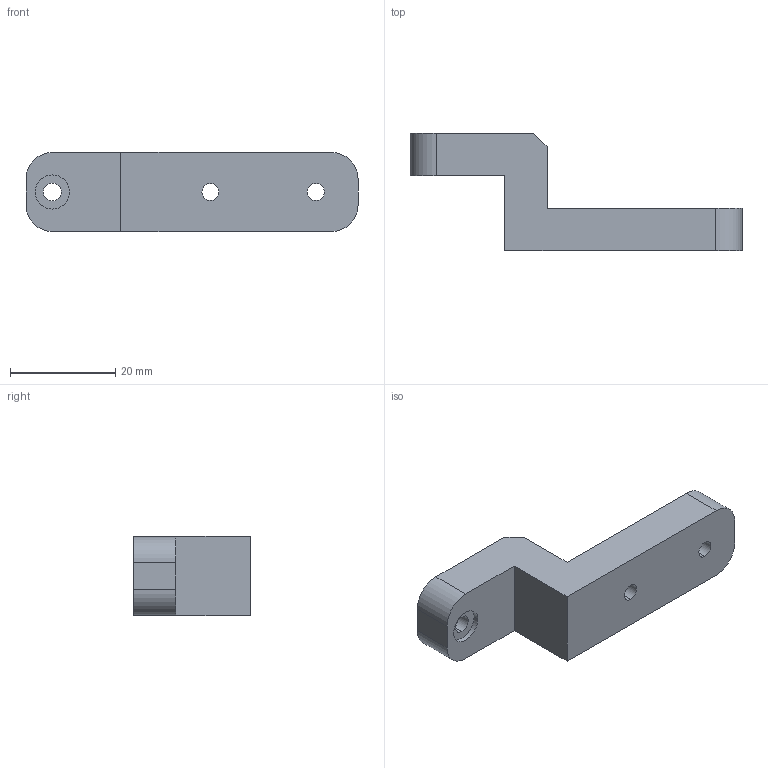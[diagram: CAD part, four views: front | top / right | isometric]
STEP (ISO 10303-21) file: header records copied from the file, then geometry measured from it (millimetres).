
FILE_DESCRIPTION (( 'STEP AP214' ), '1' );
FILE_NAME ('GZ21.29_V1嗉謫覃誹輸.STEP', '2021-02-28T09:35:55', ( 'hp' ), ( '' ), 'SwSTEP 2.0', 'SolidWorks 2017', '' );
FILE_SCHEMA (( 'AUTOMOTIVE_DESIGN' ));
Length unit declared in the file: millimetre
Products named in the file (1): GZ21.29_V1嗉謫覃誹輸
Bounding box: 63 x 22.2 x 15 mm (x, y, z)
Volume: 8751.4 mm3; surface area: 3886.1 mm2
Topology: 1 solids, 1 shells, 27 faces, 69 edges, 46 vertices
Faces by surface type: cylinder 14, plane 13
Entity records: 921 total; most frequent: DIRECTION 153, CARTESIAN_POINT 143, ORIENTED_EDGE 138, EDGE_CURVE 69, AXIS2_PLACEMENT_3D 56, VERTEX_POINT 46, LINE 41, VECTOR 41
